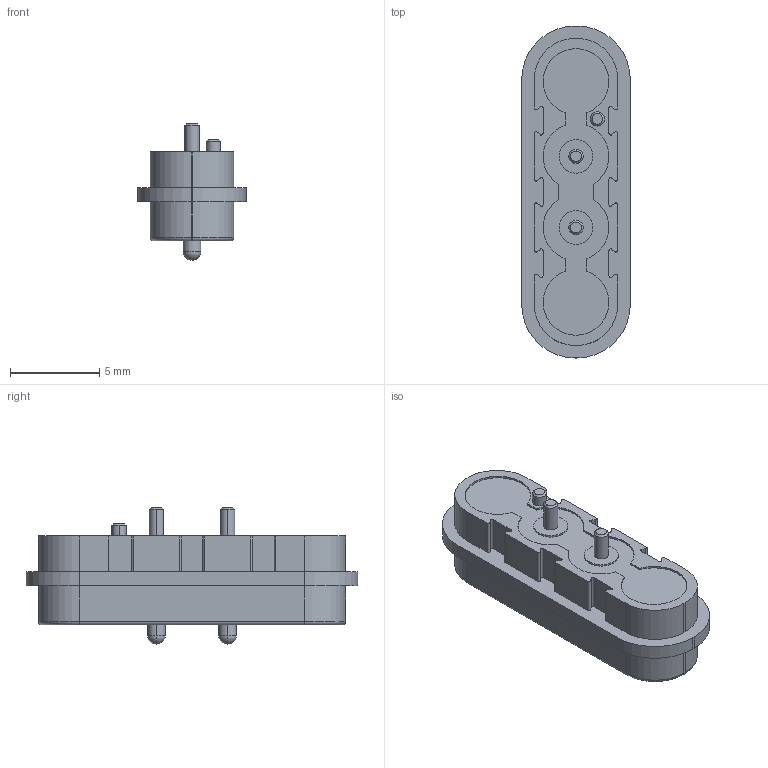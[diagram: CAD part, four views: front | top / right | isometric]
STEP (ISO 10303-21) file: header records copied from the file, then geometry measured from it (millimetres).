
FILE_DESCRIPTION((''),'2;1');
FILE_NAME('ASM0001_ASM','2026-01-08T',('fros.liao'),(''),'CREO PARAMETRIC BY PTC INC, 2018360','CREO PARAMETRIC BY PTC INC, 2018360','');
FILE_SCHEMA(('CONFIG_CONTROL_DESIGN'));
Length unit declared in the file: millimetre
Products named in the file (7): POGOPIN-0507_1_1_1; MAGNET-0507_N_1_1_1; HSG-2P-0507_-MALE_1_1_1; MAGNET-0507_S_1_1_1; GLUE-2P-0507_1_1_1; FROS_ASM_1_1_ASM; ASM0001_ASM
Assembly tree (7 placements, depth 3):
  ASM0001_ASM
    FROS_ASM_1_1_ASM
      POGOPIN-0507_1_1_1  x2
      MAGNET-0507_N_1_1_1
      HSG-2P-0507_-MALE_1_1_1
      MAGNET-0507_S_1_1_1
      GLUE-2P-0507_1_1_1
Bounding box: 6.1 x 18.65 x 7.7 mm (x, y, z)
Volume: 391.6 mm3; surface area: 904.3 mm2
Topology: 6 solids, 6 shells, 248 faces, 606 edges, 380 vertices
Faces by surface type: cylinder 124, plane 78, cone 30, torus 12, sphere 4
Entity records: 6632 total; most frequent: DIRECTION 1252, CARTESIAN_POINT 1104, ORIENTED_EDGE 1064, EDGE_CURVE 532, AXIS2_PLACEMENT_3D 487, VERTEX_POINT 339, VECTOR 278, LINE 278
